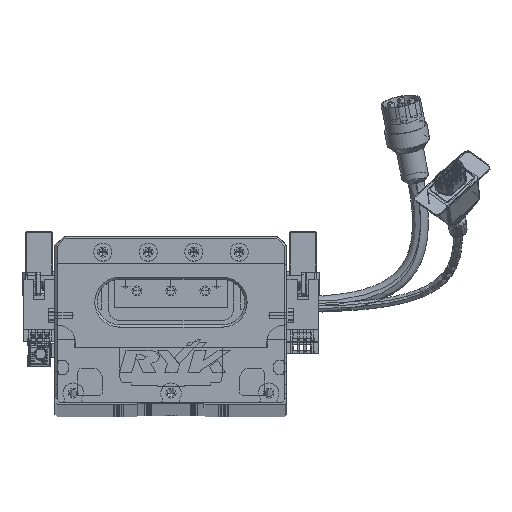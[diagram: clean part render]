
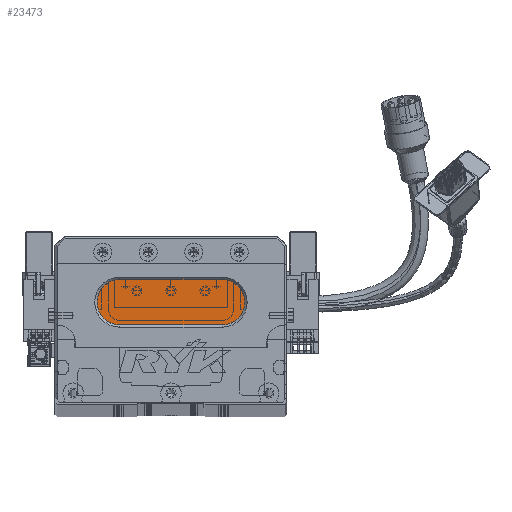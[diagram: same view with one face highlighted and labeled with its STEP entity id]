
A CAD part, top view. The second image highlights one B-rep face of the part: STEP entity #23473.
In plain terms, the highlighted planar face has unit normal (0, 0, 1) as drawn and (0, 0, -1) by its records, which use the part's own axes.
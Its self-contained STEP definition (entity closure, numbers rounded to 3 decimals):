
#1084 = CARTESIAN_POINT ( 'NONE',  ( 28.5, 44., 13. ) ) ;
#1289 = DIRECTION ( 'NONE',  ( 0., 0., -1. ) ) ;
#3696 = ORIENTED_EDGE ( 'NONE', *, *, #84887, .T. ) ;
#3724 = PLANE ( 'NONE',  #76510 ) ;
#3808 = LINE ( 'NONE', #29091, #74164 ) ;
#6508 = EDGE_LOOP ( 'NONE', ( #56227, #79201, #3696, #25327, #74925 ) ) ;
#7260 = EDGE_CURVE ( 'NONE', #54661, #88783, #3808, .T. ) ;
#7952 = DIRECTION ( 'NONE',  ( -1., 0., 0. ) ) ;
#8762 = EDGE_CURVE ( 'NONE', #33085, #66687, #11381, .T. ) ;
#11089 = CIRCLE ( 'NONE', #53615, 10. ) ;
#11381 = LINE ( 'NONE', #89960, #19243 ) ;
#19243 = VECTOR ( 'NONE', #77172, 1000. ) ;
#22355 = DIRECTION ( 'NONE',  ( 0., 0., -1. ) ) ;
#23473 = ADVANCED_FACE ( 'NONE', ( #67072 ), #3724, .T. ) ;
#25001 = CARTESIAN_POINT ( 'NONE',  ( 73.5, 44., 13. ) ) ;
#25327 = ORIENTED_EDGE ( 'NONE', *, *, #68781, .T. ) ;
#28836 = CARTESIAN_POINT ( 'NONE',  ( 28.5, 34., 13. ) ) ;
#29091 = CARTESIAN_POINT ( 'NONE',  ( 73.5, 54., 13. ) ) ;
#29690 = DIRECTION ( 'NONE',  ( 1., 0., 0. ) ) ;
#31661 = CARTESIAN_POINT ( 'NONE',  ( 73.5, 54., 13. ) ) ;
#32804 = DIRECTION ( 'NONE',  ( 0., 0., -1. ) ) ;
#33085 = VERTEX_POINT ( 'NONE', #59925 ) ;
#39333 = DIRECTION ( 'NONE',  ( -1., 0., 0. ) ) ;
#41095 = CIRCLE ( 'NONE', #47673, 10. ) ;
#47673 = AXIS2_PLACEMENT_3D ( 'NONE', #1084, #22355, #7952 ) ;
#53615 = AXIS2_PLACEMENT_3D ( 'NONE', #58666, #1289, #86727 ) ;
#54661 = VERTEX_POINT ( 'NONE', #84577 ) ;
#56027 = AXIS2_PLACEMENT_3D ( 'NONE', #69194, #82614, #39333 ) ;
#56227 = ORIENTED_EDGE ( 'NONE', *, *, #66716, .T. ) ;
#58666 = CARTESIAN_POINT ( 'NONE',  ( 73.5, 44., 13. ) ) ;
#59925 = CARTESIAN_POINT ( 'NONE',  ( 73.5, 34., 13. ) ) ;
#64439 = CIRCLE ( 'NONE', #56027, 10. ) ;
#66687 = VERTEX_POINT ( 'NONE', #28836 ) ;
#66716 = EDGE_CURVE ( 'NONE', #88783, #33085, #11089, .T. ) ;
#67072 = FACE_OUTER_BOUND ( 'NONE', #6508, .T. ) ;
#68781 = EDGE_CURVE ( 'NONE', #72213, #54661, #64439, .T. ) ;
#69194 = CARTESIAN_POINT ( 'NONE',  ( 28.5, 44., 13. ) ) ;
#72213 = VERTEX_POINT ( 'NONE', #74543 ) ;
#74164 = VECTOR ( 'NONE', #29690, 1000. ) ;
#74543 = CARTESIAN_POINT ( 'NONE',  ( 18.5, 44., 13. ) ) ;
#74925 = ORIENTED_EDGE ( 'NONE', *, *, #7260, .T. ) ;
#76510 = AXIS2_PLACEMENT_3D ( 'NONE', #25001, #32804, #82631 ) ;
#77172 = DIRECTION ( 'NONE',  ( -1., 0., 0. ) ) ;
#79201 = ORIENTED_EDGE ( 'NONE', *, *, #8762, .T. ) ;
#82614 = DIRECTION ( 'NONE',  ( 0., 0., -1. ) ) ;
#82631 = DIRECTION ( 'NONE',  ( -1., 0., 0. ) ) ;
#84577 = CARTESIAN_POINT ( 'NONE',  ( 28.5, 54., 13. ) ) ;
#84887 = EDGE_CURVE ( 'NONE', #66687, #72213, #41095, .T. ) ;
#86727 = DIRECTION ( 'NONE',  ( -1., 0., 0. ) ) ;
#88783 = VERTEX_POINT ( 'NONE', #31661 ) ;
#89960 = CARTESIAN_POINT ( 'NONE',  ( 73.5, 34., 13. ) ) ;
